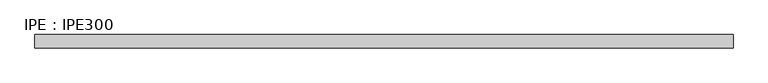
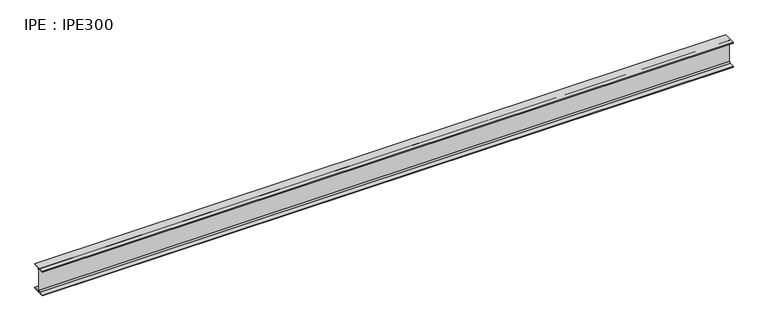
"""IFC4 building model written with IfcOpenShell, lengths in millimetres: beam geometry, IPE : IPE300."""

from ifc_helpers import new_model, si_unit, point, frame, frame_2d, origin, place, context, project, spatial, polyline, circle_curve, trimmed, segment, composite_curve, outline, extrude, source, transform, mapped, element, save


def ipe_ipe300_0cf405c3(model_context):
    return source(origin(), model_context, "Body", "SweptSolid", [
        extrude(outline(composite_curve([segment(polyline([(75.0, -139.3), (75.0, -150.0), (-75.0, -150.0), (-75.0, -139.3), (-18.55, -139.3)]), True, "CONTINUOUS"), segment(trimmed(circle_curve(frame_2d((-18.55, -124.3)), 15.0), [point((-18.55, -139.3))], [point((-3.55, -124.3))], True, "CARTESIAN"), True, "CONTINUOUS"), segment(polyline([(-3.55, -124.3), (-3.55, 124.3)]), True, "CONTINUOUS"), segment(trimmed(circle_curve(frame_2d((-18.55, 124.3)), 15.0), [point((-3.55, 124.3))], [point((-18.55, 139.3))], True, "CARTESIAN"), True, "CONTINUOUS"), segment(polyline([(-18.55, 139.3), (-75.0, 139.3), (-75.0, 150.0), (75.0, 150.0), (75.0, 139.3), (18.55, 139.3)]), True, "CONTINUOUS"), segment(trimmed(circle_curve(frame_2d((18.55, 124.3)), 15.0), [point((18.55, 139.3))], [point((3.55, 124.3))], True, "CARTESIAN"), True, "CONTINUOUS"), segment(polyline([(3.55, 124.3), (3.55, -124.3)]), True, "CONTINUOUS"), segment(trimmed(circle_curve(frame_2d((18.55, -124.3)), 15.0), [point((3.55, -124.3))], [point((18.55, -139.3))], True, "CARTESIAN"), True, "CONTINUOUS"), segment(polyline([(18.55, -139.3), (75.0, -139.3)]), True, "CONTINUOUS")], self_intersect=False)), frame((-3918.3, 0.0, 0.0), z_axis=(1.0, 0.0, 0.0), x_axis=(0.0, 1.0, 0.0)), (0.0, 0.0, 1.0), 7913.3),
    ])


if __name__ == "__main__":
    model = new_model("IFC4")
    model_context = context("Model", 3, world=origin())
    ifc_project = project(units=[si_unit("LENGTHUNIT", "METRE", prefix="MILLI")], contexts=[model_context])
    site = spatial("IfcSite", under=ifc_project)
    building = spatial("IfcBuilding", under=site)
    placement = place(None, origin())
    ipe_ipe300_shape = ipe_ipe300_0cf405c3(model_context)
    element("IfcBeam", 1, ObjectType="IPE : IPE300", at=placement, inside=building, context=model_context, shape_type="MappedRepresentation", body=[
        mapped(ipe_ipe300_shape, transform((0.0, 0.0, 0.0), x_axis=(1.0, 0.0, 0.0), y_axis=(0.0, 1.0, 0.0), z_axis=(0.0, 0.0, 1.0))),
    ])
    save(model, "model.ifc")
